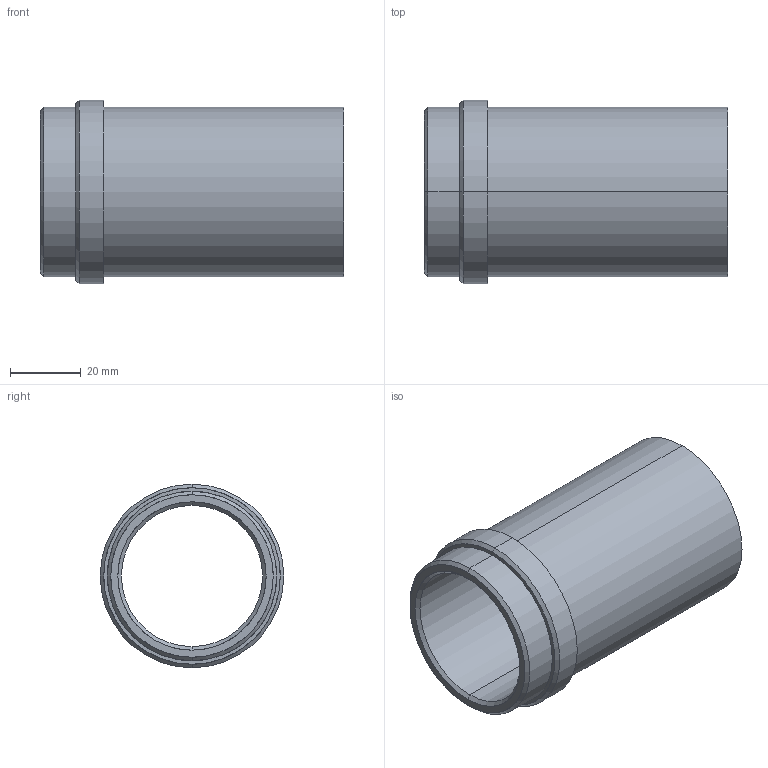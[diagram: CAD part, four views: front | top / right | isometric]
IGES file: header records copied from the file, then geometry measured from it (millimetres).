
Start section: START RECORD GO HERE.
Global section: file name: 358-40x86.igs; native system: DASSAULT SYSTEMES CATIA V5 R20 - www.3ds.com; preprocessor: CATIA Version 5 Release 20 ; author: Utente; organization: NB04-ASUS; date: 20210409.165433; units: millimetre
Bounding box: 86 x 52 x 52 mm (x, y, z)
Surface area: 25245.2 mm2 (no closed solid volume)
Topology: 0 solids, 0 shells, 20 faces, 128 edges, 128 vertices
Faces by surface type: revolution 16, plane 4
